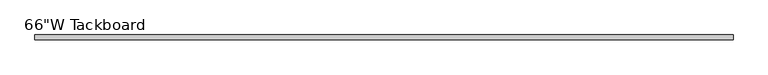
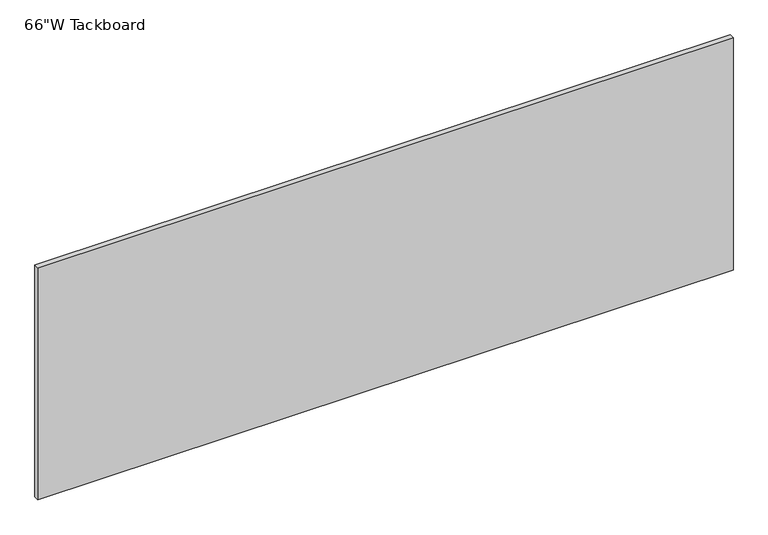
"""IFC4 building model written with IfcOpenShell, lengths in millimetres: furniture geometry."""

from ifc_helpers import new_model, si_unit, frame, origin, place, context, project, spatial, polyline, outline, extrude, source, transform, mapped, element, save


def furniture_5c73da5b(model_context):
    return source(origin(), model_context, "Body", "SweptSolid", [
        extrude(outline(polyline([(1003.3, 0.0), (1003.3, -11.90625), (-673.1, -11.90625), (-673.1, 0.0), (1003.3, 0.0)])), frame((0.0, 0.0, 762.0), z_axis=(0.0, 0.0, 1.0), x_axis=(1.0, 0.0, 0.0)), (0.0, 0.0, 1.0), 592.1375),
    ])


if __name__ == "__main__":
    model = new_model("IFC4")
    model_context = context("Model", 3, world=origin())
    ifc_project = project(units=[si_unit("LENGTHUNIT", "METRE", prefix="MILLI")], contexts=[model_context])
    site = spatial("IfcSite", under=ifc_project)
    building = spatial("IfcBuilding", under=site)
    placement = place(None, origin())
    furniture_shape = furniture_5c73da5b(model_context)
    element("IfcFurniture", 1, ObjectType="Haworth_Masters_Tackboard : 66\"W Tackboard", at=placement, inside=building, context=model_context, shape_type="MappedRepresentation", body=[
        mapped(furniture_shape, transform((0.0, 0.0, 0.0), x_axis=(1.0, 0.0, 0.0), y_axis=(0.0, 1.0, 0.0), z_axis=(0.0, 0.0, 1.0))),
    ])
    save(model, "model.ifc")
